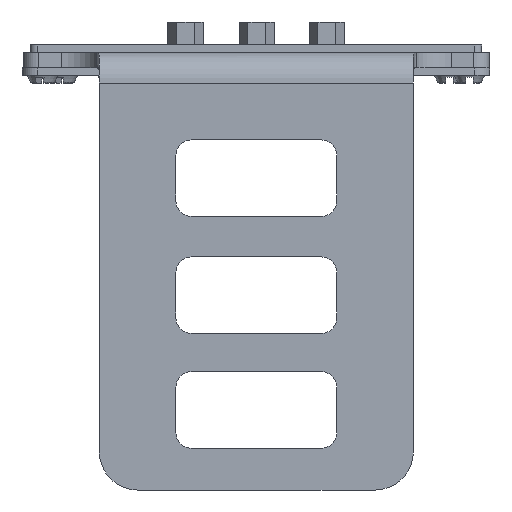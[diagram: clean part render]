
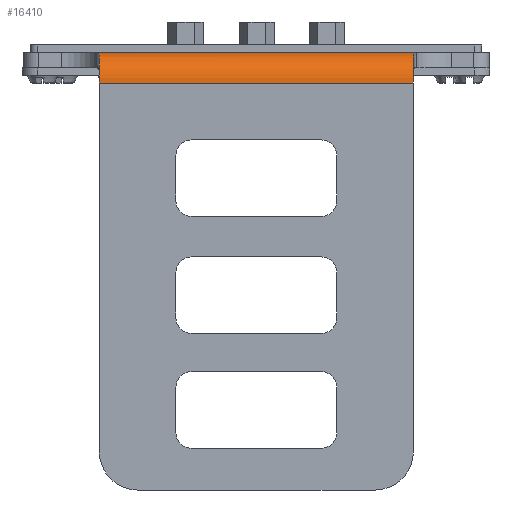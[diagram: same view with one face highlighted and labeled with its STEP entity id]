
A CAD part, front view. The second image highlights one B-rep face of the part: STEP entity #16410.
In plain terms, the highlighted cylindrical face has radius 4 mm (diameter 8 mm), a partial arc.
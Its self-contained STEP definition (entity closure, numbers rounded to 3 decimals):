
#16410=ADVANCED_FACE('',(#19094),#19102,.T.);
#16425=VERTEX_POINT('',#16427);
#16427=CARTESIAN_POINT('',(-20.549,-0.271,
   -4.));
#16429=EDGE_CURVE('',#16435,#16425,#16430,.T.);
#16430=CIRCLE('',#16431,4.);
#16431=AXIS2_PLACEMENT_3D('',#16432,#16433,#16434);
#16432=CARTESIAN_POINT('',(-20.549,3.729,
   -4.));
#16433=DIRECTION('',(1.,0.,0.));
#16434=DIRECTION('',(0.,-0.588,
   0.809));
#16435=VERTEX_POINT('',#16436);
#16436=CARTESIAN_POINT('',(-20.549,1.377,
   -0.764));
#16819=VERTEX_POINT('',#16820);
#16820=CARTESIAN_POINT('',(20.549,1.377,
   -0.764));
#16821=EDGE_CURVE('',#16827,#16819,#16822,.T.);
#16822=CIRCLE('',#16823,4.);
#16823=AXIS2_PLACEMENT_3D('',#16824,#16825,#16826);
#16824=CARTESIAN_POINT('',(20.549,3.729,
   -4.));
#16825=DIRECTION('',(-1.,0.,0.));
#16826=DIRECTION('',(0.,-1.,0.));
#16827=VERTEX_POINT('',#16828);
#16828=CARTESIAN_POINT('',(20.549,-0.271,
   -4.));
#16853=EDGE_CURVE('',#16425,#16827,#16854,.T.);
#16854=LINE('',#16855,#16856);
#16855=CARTESIAN_POINT('',(-19.369,-0.271,
   -4.));
#16856=VECTOR('',#16857,1.);
#16857=DIRECTION('',(1.,0.,0.));
#18790=VERTEX_POINT('',#18791);
#18791=CARTESIAN_POINT('',(-20.903,3.729,
   0.));
#18792=EDGE_CURVE('',#18790,#18797,#18793,.T.);
#18793=LINE('',#18794,#18795);
#18794=CARTESIAN_POINT('',(-19.369,3.729,
   0.));
#18795=VECTOR('',#18796,1.);
#18796=DIRECTION('',(1.,0.,0.));
#18797=VERTEX_POINT('',#18798);
#18798=CARTESIAN_POINT('',(20.903,3.729,
   0.));
#18964=EDGE_CURVE('',#16819,#18797,#18965,.T.);
#18965=B_SPLINE_CURVE_WITH_KNOTS('',3,(#18966,#18967,#18968,#18969,
   #18970,#18971,#18972,#18973,#18974,#18975,#18976,#18977,#18978,#18979
   ,#18980,#18981,#18982,#18983,#18984,#18985,#18986),.UNSPECIFIED.,.F.,
   .F.,(4,1,1,2,2,1,2,2,1,2,2,1,4),(0.,0.125,
   0.25,0.375,0.406,
   0.438,0.5,0.625,
   0.75,0.875,0.906,
   0.938,1.),.UNSPECIFIED.);
#18966=CARTESIAN_POINT('',(20.549,1.377,
   -0.764));
#18967=CARTESIAN_POINT('',(20.549,1.464,
   -0.701));
#18968=CARTESIAN_POINT('',(20.553,1.641,
   -0.583));
#18969=CARTESIAN_POINT('',(20.569,1.918,
   -0.429));
#18970=CARTESIAN_POINT('',(20.588,2.11,
   -0.341));
#18971=CARTESIAN_POINT('',(20.601,2.232,
   -0.29));
#18972=CARTESIAN_POINT('',(20.604,2.257,
   -0.28));
#18973=CARTESIAN_POINT('',(20.61,2.307,
   -0.261));
#18974=CARTESIAN_POINT('',(20.62,2.381,
   -0.233));
#18975=CARTESIAN_POINT('',(20.63,2.456,
   -0.208));
#18976=CARTESIAN_POINT('',(20.652,2.606,
   -0.16));
#18977=CARTESIAN_POINT('',(20.668,2.706,
   -0.132));
#18978=CARTESIAN_POINT('',(20.705,2.908,
   -0.084));
#18979=CARTESIAN_POINT('',(20.745,3.111,
   -0.044));
#18980=CARTESIAN_POINT('',(20.793,3.317,
   -0.02));
#18981=CARTESIAN_POINT('',(20.826,3.446,
   -0.01));
#18982=CARTESIAN_POINT('',(20.832,3.471,
   -0.008));
#18983=CARTESIAN_POINT('',(20.846,3.523,
   -0.005));
#18984=CARTESIAN_POINT('',(20.866,3.6,
   -0.001));
#18985=CARTESIAN_POINT('',(20.888,3.677,
   0.));
#18986=CARTESIAN_POINT('',(20.903,3.729,
   0.));
#19044=EDGE_CURVE('',#18790,#16435,#19045,.T.);
#19045=B_SPLINE_CURVE_WITH_KNOTS('',3,(#19046,#19047,#19048,#19049,
   #19050,#19051,#19052,#19053,#19054,#19055,#19056,#19057,#19058,#19059
   ,#19060,#19061,#19062,#19063,#19064,#19065,#19066,#19067,#19068),
   .UNSPECIFIED.,.F.,.F.,(4,2,1,2,2,2,2,2,1,2,2,1,4),(0.,
   0.125,0.187,0.219,
   0.25,0.375,0.5,
   0.625,0.687,0.719,
   0.75,0.875,1.),.UNSPECIFIED.);
#19046=CARTESIAN_POINT('',(-20.903,3.729,
   0.));
#19047=CARTESIAN_POINT('',(-20.873,3.626,
   0.));
#19048=CARTESIAN_POINT('',(-20.845,3.524,
   -0.004));
#19049=CARTESIAN_POINT('',(-20.806,3.369,
   -0.016));
#19050=CARTESIAN_POINT('',(-20.788,3.292,
   -0.023));
#19051=CARTESIAN_POINT('',(-20.77,3.215,
   -0.033));
#19052=CARTESIAN_POINT('',(-20.758,3.163,
   -0.04));
#19053=CARTESIAN_POINT('',(-20.753,3.137,
   -0.044));
#19054=CARTESIAN_POINT('',(-20.725,3.009,
   -0.064));
#19055=CARTESIAN_POINT('',(-20.705,2.906,
   -0.084));
#19056=CARTESIAN_POINT('',(-20.668,2.704,
   -0.132));
#19057=CARTESIAN_POINT('',(-20.652,2.604,
   -0.16));
#19058=CARTESIAN_POINT('',(-20.622,2.405,
   -0.224));
#19059=CARTESIAN_POINT('',(-20.61,2.307,
   -0.26));
#19060=CARTESIAN_POINT('',(-20.593,2.161,
   -0.32));
#19061=CARTESIAN_POINT('',(-20.586,2.089,
   -0.351));
#19062=CARTESIAN_POINT('',(-20.579,2.017,
   -0.385));
#19063=CARTESIAN_POINT('',(-20.575,1.969,
   -0.408));
#19064=CARTESIAN_POINT('',(-20.573,1.945,
   -0.42));
#19065=CARTESIAN_POINT('',(-20.564,1.826,
   -0.48));
#19066=CARTESIAN_POINT('',(-20.553,1.641,
   -0.583));
#19067=CARTESIAN_POINT('',(-20.549,1.463,
   -0.702));
#19068=CARTESIAN_POINT('',(-20.549,1.377,
   -0.764));
#19094=FACE_OUTER_BOUND('',#19095,.T.);
#19095=EDGE_LOOP('',(#19096,#19097,#19098,#19099,#19100,#19101));
#19096=ORIENTED_EDGE('',*,*,#19044,.T.);
#19097=ORIENTED_EDGE('',*,*,#16429,.T.);
#19098=ORIENTED_EDGE('',*,*,#16853,.T.);
#19099=ORIENTED_EDGE('',*,*,#16821,.T.);
#19100=ORIENTED_EDGE('',*,*,#18964,.T.);
#19101=ORIENTED_EDGE('',*,*,#18792,.F.);
#19102=CYLINDRICAL_SURFACE('',#19103,4.);
#19103=AXIS2_PLACEMENT_3D('',#19104,#19105,#19106);
#19104=CARTESIAN_POINT('',(-20.903,3.729,
   -4.));
#19105=DIRECTION('',(1.,0.,0.));
#19106=DIRECTION('',(0.,0.,-1.));
